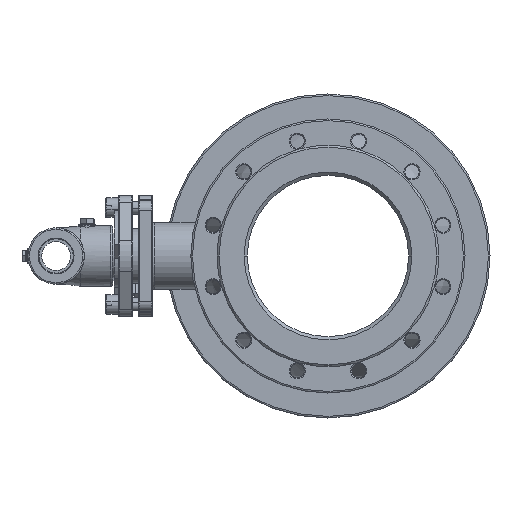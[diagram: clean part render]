
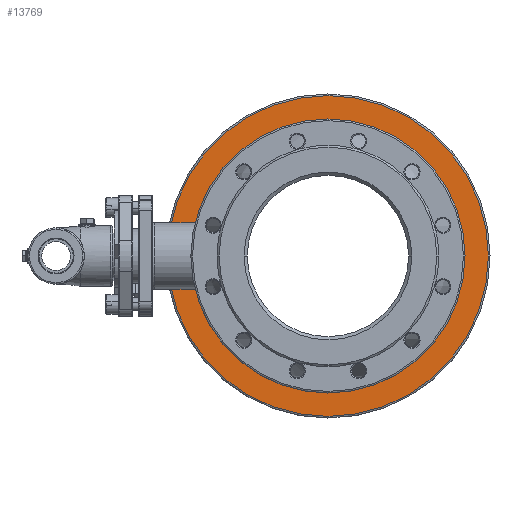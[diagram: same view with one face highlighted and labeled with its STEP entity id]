
A CAD part, left-side view. The second image highlights one B-rep face of the part: STEP entity #13769.
In plain terms, the highlighted planar face has unit normal (-1, 0, 0).
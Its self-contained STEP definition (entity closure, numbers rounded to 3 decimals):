
#2221 = EDGE_LOOP ( 'NONE', ( #16184, #16185 ) ) ;
#2225 = EDGE_LOOP ( 'NONE', ( #16186, #16187 ) ) ;
#4726 = CARTESIAN_POINT ( 'NONE',  ( 74.5, 0., 0. ) ) ;
#4728 = DIRECTION ( 'NONE',  ( 1., 0., 0. ) ) ;
#4730 = DIRECTION ( 'NONE',  ( 0., -1., 0. ) ) ;
#4824 = CARTESIAN_POINT ( 'NONE',  ( 74.5, 0., 0. ) ) ;
#4825 = DIRECTION ( 'NONE',  ( -1., 0., 0. ) ) ;
#4826 = DIRECTION ( 'NONE',  ( 0., -1., 0. ) ) ;
#7976 = AXIS2_PLACEMENT_3D ( 'NONE', #9007, #9005, #9013 ) ;
#9005 = DIRECTION ( 'NONE',  ( -1., 0., 0. ) ) ;
#9007 = CARTESIAN_POINT ( 'NONE',  ( 74.5, 165., 0. ) ) ;
#9008 = FACE_OUTER_BOUND ( 'NONE', #2221, .T. ) ;
#9010 = FACE_BOUND ( 'NONE', #2225, .T. ) ;
#9011 = PLANE ( 'NONE',  #7976 ) ;
#9013 = DIRECTION ( 'NONE',  ( 0., -1., 0. ) ) ;
#12198 = EDGE_CURVE ( 'NONE', #17227, #17226, #19129, .T. ) ;
#12199 = EDGE_CURVE ( 'NONE', #17211, #17210, #19127, .T. ) ;
#13090 = EDGE_CURVE ( 'NONE', #17210, #17211, #23395, .T. ) ;
#13106 = EDGE_CURVE ( 'NONE', #17226, #17227, #23427, .T. ) ;
#13769 = ADVANCED_FACE ( 'NONE', ( #9008, #9010 ), #9011, .T. ) ;
#15132 = CARTESIAN_POINT ( 'NONE',  ( 74.5, -167., 0. ) ) ;
#15133 = CARTESIAN_POINT ( 'NONE',  ( 74.5, 167., 0. ) ) ;
#15148 = CARTESIAN_POINT ( 'NONE',  ( 74.5, -199., 0. ) ) ;
#15149 = CARTESIAN_POINT ( 'NONE',  ( 74.5, 199., 0. ) ) ;
#16184 = ORIENTED_EDGE ( 'NONE', *, *, #13106, .T. ) ;
#16185 = ORIENTED_EDGE ( 'NONE', *, *, #12198, .T. ) ;
#16186 = ORIENTED_EDGE ( 'NONE', *, *, #13090, .T. ) ;
#16187 = ORIENTED_EDGE ( 'NONE', *, *, #12199, .T. ) ;
#17210 = VERTEX_POINT ( 'NONE', #15132 ) ;
#17211 = VERTEX_POINT ( 'NONE', #15133 ) ;
#17226 = VERTEX_POINT ( 'NONE', #15148 ) ;
#17227 = VERTEX_POINT ( 'NONE', #15149 ) ;
#18759 = CARTESIAN_POINT ( 'NONE',  ( 74.5, 0., 0. ) ) ;
#18760 = DIRECTION ( 'NONE',  ( -1., 0., 0. ) ) ;
#18761 = DIRECTION ( 'NONE',  ( 0., -1., 0. ) ) ;
#18762 = CARTESIAN_POINT ( 'NONE',  ( 74.5, 0., 0. ) ) ;
#18763 = DIRECTION ( 'NONE',  ( 1., 0., 0. ) ) ;
#18764 = DIRECTION ( 'NONE',  ( 0., -1., 0. ) ) ;
#19127 = CIRCLE ( 'NONE', #19134, 167. ) ;
#19129 = CIRCLE ( 'NONE', #19132, 199. ) ;
#19132 = AXIS2_PLACEMENT_3D ( 'NONE', #18759, #18760, #18761 ) ;
#19134 = AXIS2_PLACEMENT_3D ( 'NONE', #18762, #18763, #18764 ) ;
#23395 = CIRCLE ( 'NONE', #23400, 167. ) ;
#23400 = AXIS2_PLACEMENT_3D ( 'NONE', #4726, #4728, #4730 ) ;
#23427 = CIRCLE ( 'NONE', #23432, 199. ) ;
#23432 = AXIS2_PLACEMENT_3D ( 'NONE', #4824, #4825, #4826 ) ;
